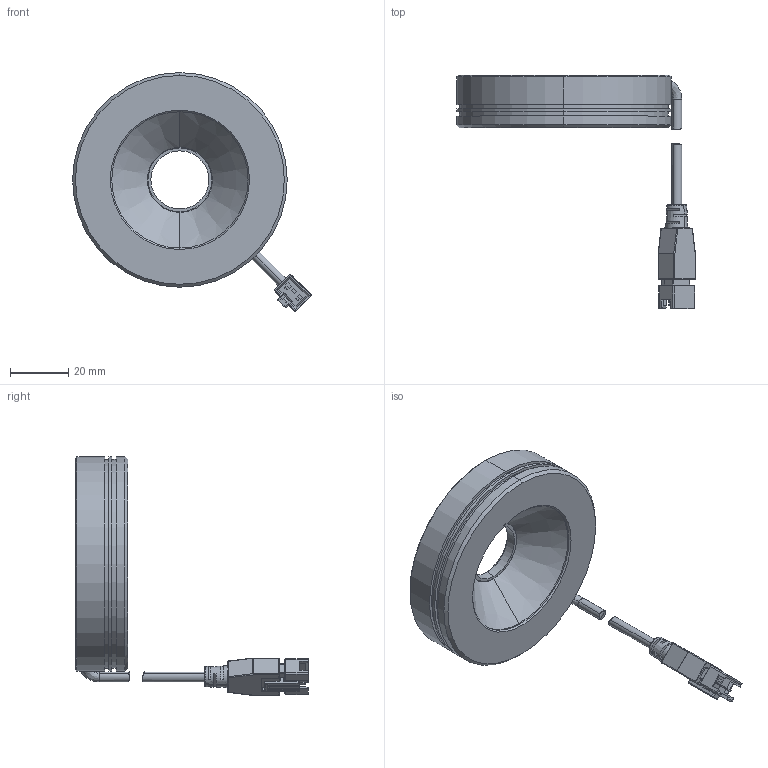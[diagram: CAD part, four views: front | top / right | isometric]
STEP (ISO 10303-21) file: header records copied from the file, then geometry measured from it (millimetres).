
FILE_DESCRIPTION (( 'STEP AP203' ), '1' );
FILE_NAME ('06 MV-LGES-74-W 光源_3d尺寸图（STP） .STEP', '2019-09-19T09:02:20', ( '' ), ( '' ), 'SwSTEP 2.0', 'SolidWorks 2016', '' );
FILE_SCHEMA (( 'CONFIG_CONTROL_DESIGN' ));
Length unit declared in the file: millimetre
Products named in the file (5): XIANLAN-_ASM; PRT0001; 06 MV-LGES-74-W 光源_3d尺寸图（STP） ; LINE_TOU; BODY_12
Assembly tree (4 placements, depth 3):
  06 MV-LGES-74-W 光源_3d尺寸图（STP） 
    PRT0001
    XIANLAN-_ASM
      LINE_TOU
      BODY_12
Bounding box: 82.34 x 80.3 x 82.34 mm (x, y, z)
Volume: 2492.7 mm3; surface area: 16719.1 mm2
Topology: 2 solids, 7 shells, 292 faces, 731 edges, 447 vertices
Faces by surface type: plane 140, cylinder 98, bspline 28, cone 20, torus 6
Entity records: 9888 total; most frequent: CARTESIAN_POINT 2587, DIRECTION 1427, ORIENTED_EDGE 1398, EDGE_CURVE 707, AXIS2_PLACEMENT_3D 507, VERTEX_POINT 447, LINE 413, VECTOR 413
